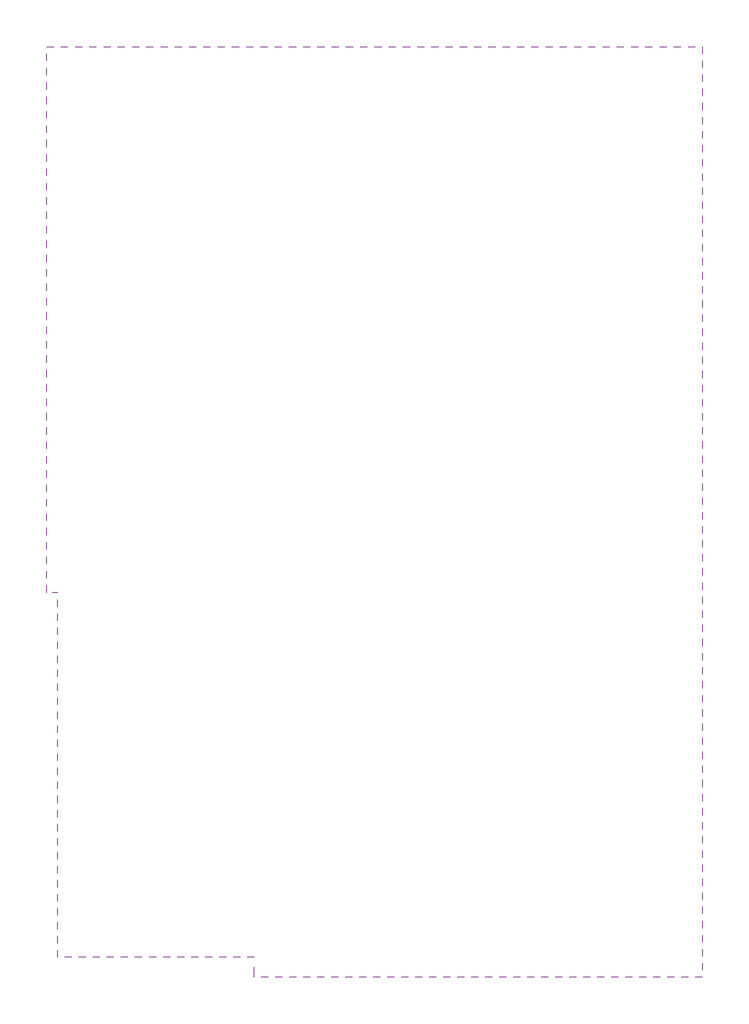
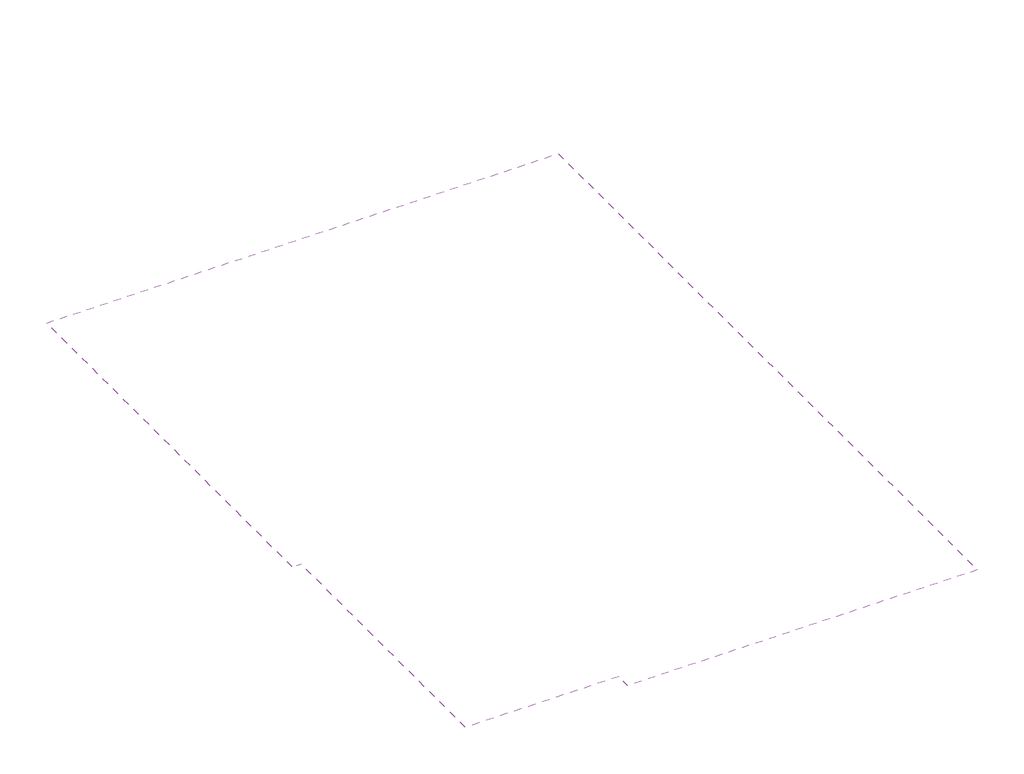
# One storey: 1 covering.
"""IFC4 building model written with IfcOpenShell, lengths in millimetres."""

import ifcopenshell
import ifcopenshell.guid

model = None  # the IFC model being written
_history = None  # IfcOwnerHistory: only IFC2X3 demands one
_inside = {}  # id of a spatial element -> (the spatial element, [elements in it])
_under = {}  # id of a project, library or spatial element -> (it, [spatial elements below it])
_declared = {}  # id of a project -> (the project, [libraries it declares])
_typed = {}  # id of a type object -> (the type object, [elements of that type])
_made_of = {}  # id of a material, layer set ... -> (it, [elements and type objects made of it])


def new_model(schema):
    """Start an empty IFC model of exactly this schema.

    Asked for "IFC4X3", IfcOpenShell would pick the latest addendum, in which some entities
    have other attributes; the version numbers below select the first issue.
    IFC2X3 requires an IfcOwnerHistory on every rooted entity: one is made here for all.
    """
    global model, _history
    if schema == "IFC4X3":
        model = ifcopenshell.file(schema_version=(4, 3, 0, 0))
    else:
        model = ifcopenshell.file(schema=schema)
    _inside.clear()
    _under.clear()
    _declared.clear()
    _typed.clear()
    _made_of.clear()
    _history = None
    if model.schema == "IFC2X3":
        org = make("IfcOrganization", Name="unknown")
        user = make(
            "IfcPersonAndOrganization",
            ThePerson=make("IfcPerson", FamilyName="unknown"),
            TheOrganization=org,
        )
        app = make(
            "IfcApplication",
            ApplicationDeveloper=org,
            Version="unknown",
            ApplicationFullName="unknown",
            ApplicationIdentifier="unknown",
        )
        _history = make(
            "IfcOwnerHistory",
            OwningUser=user,
            OwningApplication=app,
            ChangeAction="ADDED",
            CreationDate=0,
        )
    return model


def make(cls, **values):
    """One entity of the class cls with the attributes given. An attribute that is None is left unset."""
    return model.create_entity(
        cls, **{name: value for name, value in values.items() if value is not None}
    )


def rooted(cls, **values):
    """An entity with a GlobalId (a new one), such as an element, a storey or a relation."""
    return make(cls, GlobalId=ifcopenshell.guid.new(), OwnerHistory=_history, **values)


def si_unit(unit_type, name, prefix=None):
    """IfcSIUnit, for example si_unit("LENGTHUNIT", "METRE", prefix="MILLI")."""
    return make("IfcSIUnit", UnitType=unit_type, Prefix=prefix, Name=name)


def assignment(units):
    """IfcUnitAssignment: the units of a project."""
    return None if units is None else make("IfcUnitAssignment", Units=units)


def point(xyz):
    """IfcCartesianPoint."""
    return None if xyz is None else make("IfcCartesianPoint", Coordinates=xyz)


def direction(xyz):
    """IfcDirection."""
    return None if xyz is None else make("IfcDirection", DirectionRatios=xyz)


def frame(location, z_axis=None, x_axis=None):
    """IfcAxis2Placement3D, a coordinate frame: its origin and axes. An axis left out is left unset."""
    return make(
        "IfcAxis2Placement3D",
        Location=point(location),
        Axis=direction(z_axis),
        RefDirection=direction(x_axis),
    )


def origin():
    """The frame at (0, 0, 0) with its axes left unset."""
    return frame((0.0, 0.0, 0.0))


def place(relative_to, where):
    """IfcLocalPlacement: puts the frame where relative to a parent placement (None: the world)."""
    return make(
        "IfcLocalPlacement", PlacementRelTo=relative_to, RelativePlacement=where
    )


def context(
    kind, dimensions, precision=None, world=None, true_north=None, identifier=None
):
    """IfcGeometricRepresentationContext, for example the 3D "Model" context."""
    return make(
        "IfcGeometricRepresentationContext",
        ContextIdentifier=identifier,
        ContextType=kind,
        CoordinateSpaceDimension=dimensions,
        Precision=precision,
        WorldCoordinateSystem=world,
        TrueNorth=true_north,
    )


def project(units=None, contexts=None):
    """IfcProject with its units and contexts."""
    return rooted(
        "IfcProject",
        Name="project",
        RepresentationContexts=contexts,
        UnitsInContext=assignment(units),
    )


def spatial(cls, under=None, at=None, **own):
    """A site, building, storey or space (cls), placed at a placement, below another one or the project."""
    s = rooted(cls, ObjectPlacement=at, **own)
    if under is not None:
        _under.setdefault(under.id(), (under, []))[1].append(s)
    return s


def faces_of(points, faces, orient=None, outer=None):
    """IfcFace entities. A face is a list of loops; a loop is a list of indices into points, from 0.

    orient and outer hold one flag for each loop. By default every Orientation is true, the
    first loop of a face is its IfcFaceOuterBound and the others are IfcFaceBound.
    """
    made = []
    for i, loops in enumerate(faces):
        bounds = []
        for j, loop in enumerate(loops):
            is_outer = j == 0 if outer is None else outer[i][j]
            bounds.append(
                make(
                    "IfcFaceOuterBound" if is_outer else "IfcFaceBound",
                    Bound=make("IfcPolyLoop", Polygon=[points[k] for k in loop]),
                    Orientation=True if orient is None else orient[i][j],
                )
            )
        made.append(make("IfcFace", Bounds=bounds))
    return made


def faceted_brep(points, faces, orient=None, outer=None, voids=None):
    """IfcFacetedBrep: a solid bounded by flat faces; with voids (closed shells), ...WithVoids."""
    shared = [point(p) for p in points]
    hull = make("IfcClosedShell", CfsFaces=faces_of(shared, faces, orient, outer))
    if voids is None:
        return make("IfcFacetedBrep", Outer=hull)
    return make(
        "IfcFacetedBrepWithVoids",
        Outer=hull,
        Voids=[
            make(cls, CfsFaces=faces_of(shared, fs, o, b)) for cls, fs, o, b in voids
        ],
    )


def shape(context_of_items, identifier, shape_type, items):
    """IfcShapeRepresentation: the items that make up one representation, for example the "Body"."""
    return make(
        "IfcShapeRepresentation",
        ContextOfItems=context_of_items,
        RepresentationIdentifier=identifier,
        RepresentationType=shape_type,
        Items=items,
    )


def made_of(thing, what):
    """Note that an element or type object is made of a material, layer set ...; save() writes the relation."""
    if what is not None:
        _made_of.setdefault(what.id(), (what, []))[1].append(thing)
    return thing


def element(
    cls,
    number,
    at=None,
    inside=None,
    cuts=None,
    type_object=None,
    material=None,
    context=None,
    identifier="Body",
    shape_type=None,
    held_by="IfcProductDefinitionShape",
    body=None,
    shapes=None,
    **own,
):
    """One element of the class cls, such as IfcWall. Its Tag is "e" and its number.

    at: its placement. inside: the storey or other place that contains it. cuts: it is an
    opening in that element (IfcRelVoidsElement). A single representation is given by context,
    identifier, shape_type and body (its items); several are given by shapes. held_by: the class
    of the entity that holds the representations. save() writes the other relations.
    """
    e = rooted(cls, Tag="e%d" % number, ObjectPlacement=at, **own)
    if body is not None:
        shapes = [shape(context, identifier, shape_type, body)]
    if shapes is not None:
        e.Representation = make(held_by, Representations=shapes)
    if inside is not None:
        _inside.setdefault(inside.id(), (inside, []))[1].append(e)
    if cuts is not None:
        rooted(
            "IfcRelVoidsElement", RelatingBuildingElement=cuts, RelatedOpeningElement=e
        )
    if type_object is not None:
        _typed.setdefault(type_object.id(), (type_object, []))[1].append(e)
    return made_of(e, material)


def aggregate(whole, parts):
    """IfcRelAggregates: a whole, such as a stair, and the parts it consists of."""
    return rooted("IfcRelAggregates", RelatingObject=whole, RelatedObjects=parts)


def save(model, path):
    """Write the relations noted so far, then the file.

    IfcRelAggregates (storeys below a building ...), IfcRelContainedInSpatialStructure (elements
    in a storey), IfcRelDefinesByType, IfcRelAssociatesMaterial and IfcRelDeclares: one each for
    every whole, place, type object, material and project.
    """
    for whole, parts in _under.values():
        aggregate(whole, parts)
    for where, things in _inside.values():
        rooted(
            "IfcRelContainedInSpatialStructure",
            RelatedElements=things,
            RelatingStructure=where,
        )
    for kind, things in _typed.values():
        rooted("IfcRelDefinesByType", RelatedObjects=things, RelatingType=kind)
    for what, things in _made_of.values():
        rooted("IfcRelAssociatesMaterial", RelatedObjects=things, RelatingMaterial=what)
    for by, libraries in _declared.values():
        rooted("IfcRelDeclares", RelatingContext=by, RelatedDefinitions=libraries)
    model.write(path)


model = new_model("IFC4")

# Units and contexts
model_context = context("Model", 3, world=origin())
ifc_project = project(units=[si_unit("LENGTHUNIT", "METRE", prefix="MILLI")], contexts=[model_context])

# Site, building, storey
site = spatial("IfcSite", under=ifc_project)
building = spatial("IfcBuilding", under=site)
storey = spatial("IfcBuildingStorey", under=building, Name="U/S MAIN FLOOR", Elevation=-304.8)

# Covering
placement = place(None, origin())
element("IfcCovering", 1, ObjectType="1/2\" Ceiling", at=placement, inside=storey, context=model_context, shape_type="Brep", body=[
    faceted_brep([(4526.35, 11679.05, 1435.248982), (798.9, 11679.05, 1435.248982), (798.9, 8575.7740389, 1911.9767344), (862.4, 8575.7740389, 1911.9767344), (862.4, 6502.4, 2230.490124), (1980.0, 6502.4, 2230.490124), (1980.0, 6388.1, 2248.048982), (4526.35, 6388.1, 2248.048982), (4526.35, 11679.05, 1422.4), (4526.35, 6388.1, 2235.2), (1980.0, 6388.1, 2235.2), (1980.0, 6502.4, 2217.6411419), (862.4, 6502.4, 2217.6411419), (862.4, 8575.7740389, 1899.1277523), (798.9, 8575.7740389, 1899.1277523), (798.9, 11679.05, 1422.4)], [[[0, 1, 2, 3, 4, 5, 6, 7]], [[8, 9, 10, 11, 12, 13, 14, 15]], [[1, 0, 8, 15]], [[2, 1, 15, 14]], [[3, 2, 14, 13]], [[4, 3, 13, 12]], [[5, 4, 12, 11]], [[6, 5, 11, 10]], [[7, 6, 10, 9]], [[0, 7, 9, 8]]]),
])

save(model, "model.ifc")
